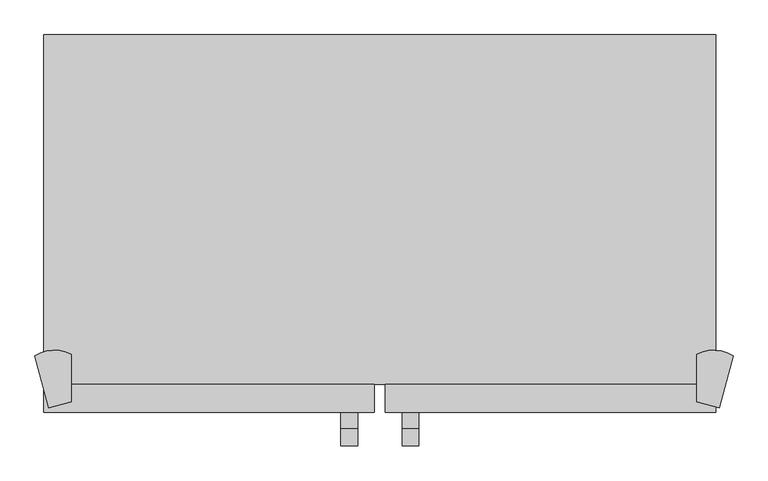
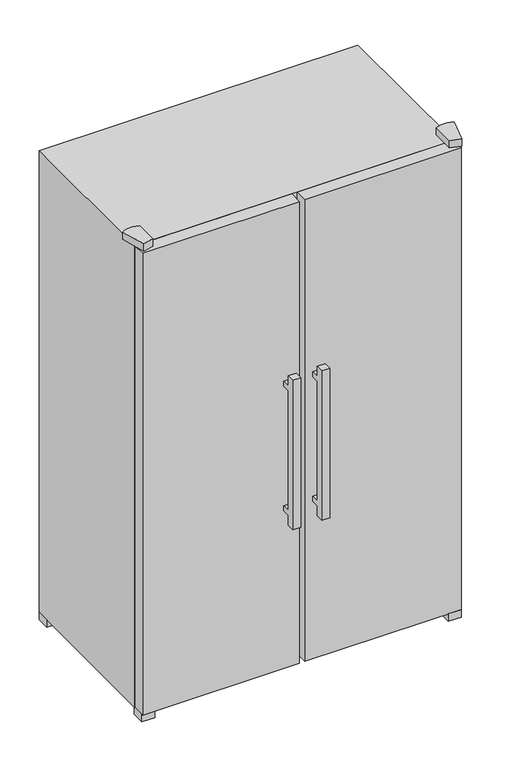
"""IFC4 building model written with IfcOpenShell, lengths in millimetres: proxy geometry, SBSes 7252, SBef 7242 : SBSes 7252."""

from ifc_helpers import new_model, si_unit, point, frame, frame_2d, origin, place, context, project, spatial, polyline, circle_curve, trimmed, segment, composite_curve, outline, extrude, source, transform, mapped, element, save


def specialty_equipment_5408e7d3(model_context):
    return source(origin(), model_context, "Body", "SweptSolid", [
        extrude(outline(polyline([(210.0, -659.8345306), (210.0, -709.8345306), (160.0, -709.8345306), (160.0, -659.8345306), (210.0, -659.8345306)])), frame((0.0, 0.0, -915.1867483), z_axis=(0.0, 0.0, 1.0), x_axis=(1.0, 0.0, 0.0)), (0.0, 0.0, 1.0), 30.0),
        extrude(outline(polyline([(210.0, -29.8345306), (210.0, -79.8345306), (160.0, -79.8345306), (160.0, -29.8345306), (210.0, -29.8345306)])), frame((0.0, 0.0, -915.1867483), z_axis=(0.0, 0.0, 1.0), x_axis=(1.0, 0.0, 0.0)), (0.0, 0.0, 1.0), 30.0),
        extrude(outline(polyline([(-950.0, -29.8345306), (-950.0, -79.8345306), (-1000.0, -79.8345306), (-1000.0, -29.8345306), (-950.0, -29.8345306)])), frame((0.0, 0.0, -915.1867483), z_axis=(0.0, 0.0, 1.0), x_axis=(1.0, 0.0, 0.0)), (0.0, 0.0, 1.0), 30.0),
        extrude(outline(polyline([(-950.0, -655.0864632), (-950.0, -705.0864632), (-1000.0, -705.0864632), (-1000.0, -655.0864632), (-950.0, -655.0864632)])), frame((0.0, 0.0, -915.1867483), z_axis=(0.0, 0.0, 1.0), x_axis=(1.0, 0.0, 0.0)), (0.0, 0.0, 1.0), 30.0),
        extrude(outline(composite_curve([segment(polyline([(215.4751893, -701.3954664), (175.4211614, -690.663022), (175.4211614, -605.5856816)]), True, "CONTINUOUS"), segment(trimmed(circle_curve(frame_2d((205.8636246, -662.0484332)), 64.1465968), [point((175.4211614, -605.5856816))], [point((240.7822422, -608.2388055))], False, "CARTESIAN"), True, "CONTINUOUS"), segment(polyline([(240.7822422, -608.2388055), (215.4751893, -701.3954664)]), True, "CONTINUOUS")], self_intersect=False)), frame((0.0, 0.0, 966.8132517), z_axis=(0.0, 0.0, 1.0), x_axis=(1.0, 0.0, 0.0)), (0.0, 0.0, 1.0), 30.0),
        extrude(outline(composite_curve([segment(polyline([(-990.4751893, -701.3954664), (-1015.7822422, -608.2388055)]), True, "CONTINUOUS"), segment(trimmed(circle_curve(frame_2d((-980.8636246, -662.0484332)), 64.1465968), [point((-1015.7822422, -608.2388055))], [point((-950.4211614, -605.5856816))], False, "CARTESIAN"), True, "CONTINUOUS"), segment(polyline([(-950.4211614, -605.5856816), (-950.4211614, -690.663022), (-990.4751893, -701.3954664)]), True, "CONTINUOUS")], self_intersect=False)), frame((0.0, 0.0, 966.8132517), z_axis=(0.0, 0.0, 1.0), x_axis=(1.0, 0.0, 0.0)), (0.0, 0.0, 1.0), 30.0),
        extrude(outline(polyline([(-739.8345306, 266.8132517), (-709.8345306, 266.8132517), (-709.8345306, 246.8132517), (-739.8345306, 246.8132517), (-739.8345306, -233.1867483), (-709.8345306, -233.1867483), (-709.8345306, -253.1867483), (-739.8345306, -253.1867483), (-739.8345306, -293.1867483), (-769.8345306, -293.1867483), (-769.8345306, 306.8132517), (-739.8345306, 306.8132517), (-739.8345306, 266.8132517)])), frame((-355.0, 0.0, 0.0), z_axis=(1.0, 0.0, 0.0), x_axis=(0.0, 1.0, 0.0)), (0.0, 0.0, 1.0), 30.0),
        extrude(outline(polyline([(-739.8345306, 266.8132517), (-709.8345306, 266.8132517), (-709.8345306, 246.8132517), (-739.8345306, 246.8132517), (-739.8345306, -233.1867483), (-709.8345306, -233.1867483), (-709.8345306, -253.1867483), (-739.8345306, -253.1867483), (-739.8345306, -293.1867483), (-769.8345306, -293.1867483), (-769.8345306, 306.8132517), (-739.8345306, 306.8132517), (-739.8345306, 266.8132517)])), frame((-465.0, 0.0, 0.0), z_axis=(1.0, 0.0, 0.0), x_axis=(0.0, 1.0, 0.0)), (0.0, 0.0, 1.0), 30.0),
        extrude(outline(polyline([(-405.0, -709.8345306), (-1000.0, -709.8345306), (-1000.0, -659.8345306), (-405.0, -659.8345306), (-405.0, -709.8345306)])), frame((0.0, 0.0, -885.1867483), z_axis=(0.0, 0.0, 1.0), x_axis=(1.0, 0.0, 0.0)), (0.0, 0.0, 1.0), 1852.0),
        extrude(outline(polyline([(210.0, -709.8345306), (-385.0, -709.8345306), (-385.0, -659.8345306), (210.0, -659.8345306), (210.0, -709.8345306)])), frame((0.0, 0.0, -885.1867483), z_axis=(0.0, 0.0, 1.0), x_axis=(1.0, 0.0, 0.0)), (0.0, 0.0, 1.0), 1852.0),
        extrude(outline(polyline([(210.0, -659.8345306), (-1000.0, -659.8345306), (-1000.0, -29.8345306), (210.0, -29.8345306), (210.0, -659.8345306)])), frame((0.0, 0.0, -885.1867483), z_axis=(0.0, 0.0, 1.0), x_axis=(1.0, 0.0, 0.0)), (0.0, 0.0, 1.0), 1852.0),
    ])


if __name__ == "__main__":
    model = new_model("IFC4")
    model_context = context("Model", 3, world=origin())
    ifc_project = project(units=[si_unit("LENGTHUNIT", "METRE", prefix="MILLI")], contexts=[model_context])
    site = spatial("IfcSite", under=ifc_project)
    building = spatial("IfcBuilding", under=site)
    placement = place(None, origin())
    specialty_equipment_shape = specialty_equipment_5408e7d3(model_context)
    element("IfcBuildingElementProxy", 1, Name="SBSes 7252, SBef 7242 : SBSes 7252", ObjectType="SBSes 7252, SBef 7242 : SBSes 7252", at=placement, inside=building, context=model_context, shape_type="MappedRepresentation", body=[
        mapped(specialty_equipment_shape, transform((0.0, 0.0, 0.0), x_axis=(1.0, 0.0, 0.0), y_axis=(0.0, 1.0, 0.0), z_axis=(0.0, 0.0, 1.0))),
    ])
    save(model, "model.ifc")
